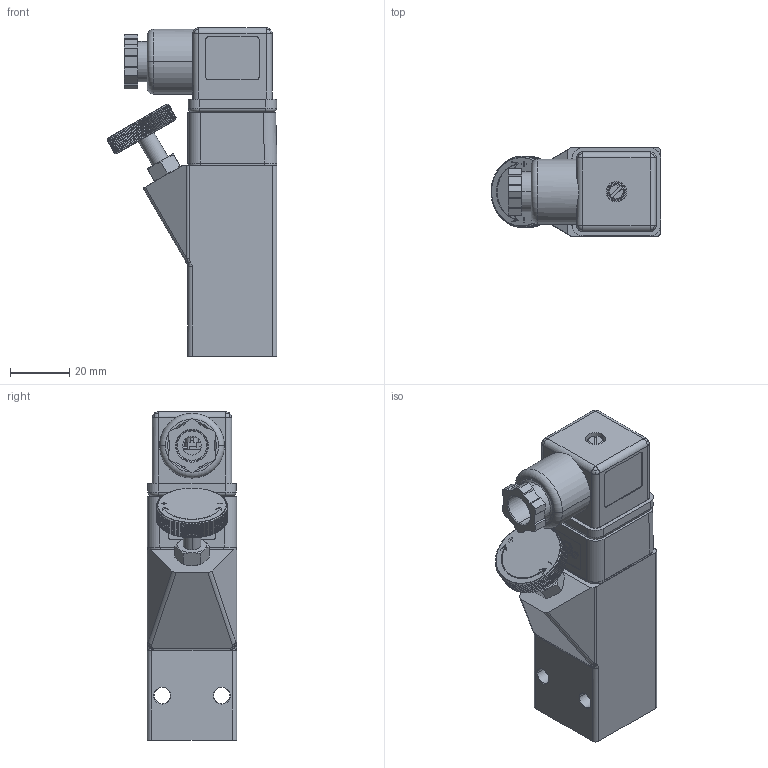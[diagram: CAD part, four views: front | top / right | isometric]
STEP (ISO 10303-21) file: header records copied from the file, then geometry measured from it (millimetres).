
FILE_DESCRIPTION(('Creo Elements/Direct Modeling STEP Export'),'2;1');
FILE_NAME('0159-14_NEU.stp','2025-05-15T10:42:41',(''),(''),'Creo Elements/Direct Modeling STEP processor for AP214 (Solid Model)','Creo Elements/Direct Modeling 20.0D 25-Aug-2018 (C) Parametric Technology GmbH','');
FILE_SCHEMA(('AUTOMOTIVE_DESIGN { 1 0 10303 214 1 1 1 1 }'));
Length unit declared in the file: millimetre
Products named in the file (3): 0159-14; GERAETESTECKDOSE
Assembly tree (2 placements, depth 2):
  0159-14
    GERAETESTECKDOSE
    0159-14
Bounding box: 57.2 x 30 x 110.5 mm (x, y, z)
Volume: 95801.2 mm3; surface area: 33444.9 mm2
Topology: 2 solids, 2 shells, 1853 faces, 5183 edges, 3361 vertices
Faces by surface type: plane 1213, cylinder 395, cone 183, torus 30, bspline 24, sphere 8
Entity records: 75501 total; most frequent: CARTESIAN_POINT 17885, ORIENTED_EDGE 10330, DIRECTION 8573, EDGE_CURVE 5165, VERTEX_POINT 3360, VECTOR 3131, LINE 3131, AXIS2_PLACEMENT_3D 2721
